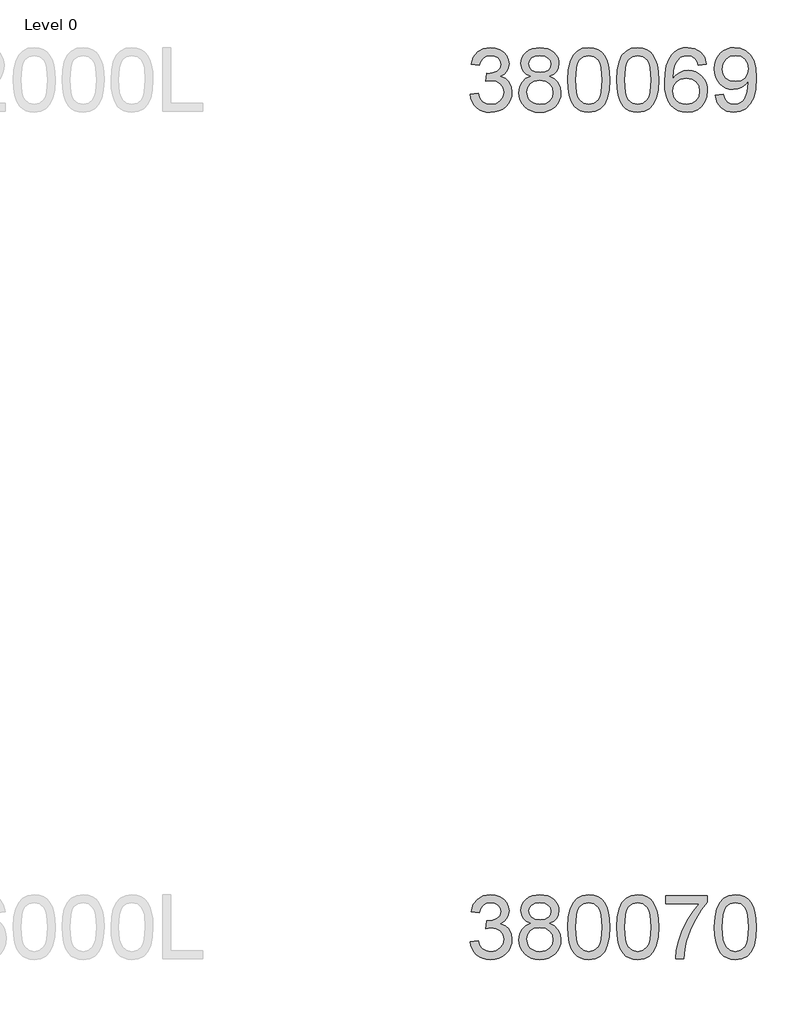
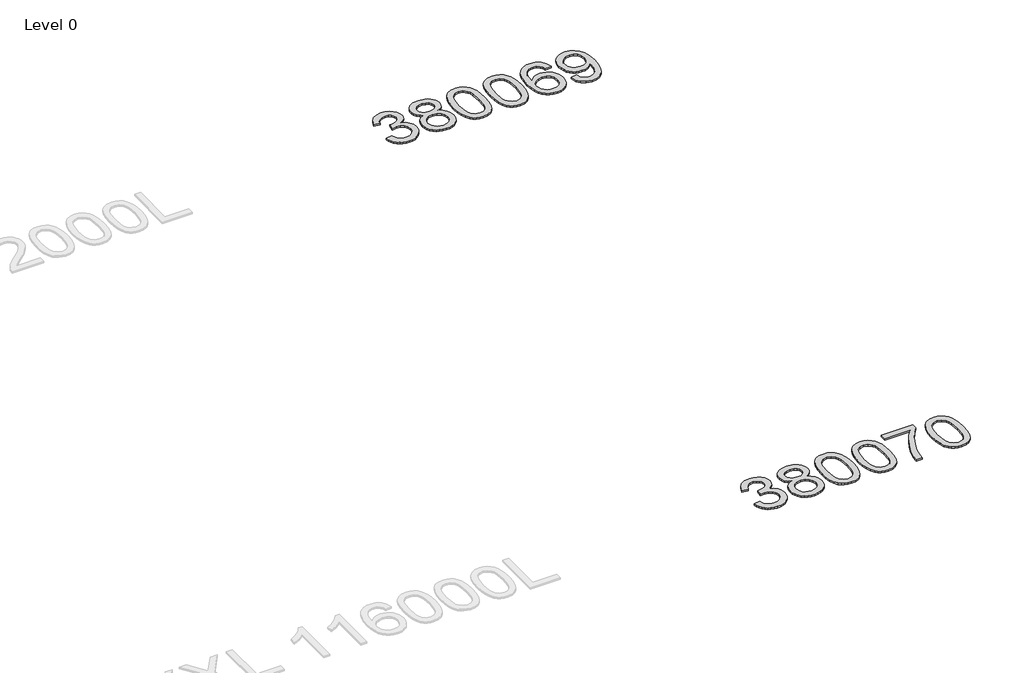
# One storey, part 22 of 37: 2 proxies.
"""IFC4 building model written with IfcOpenShell, lengths in millimetres."""

from ifc_helpers import new_model, si_unit, origin, origin_with_axes, place, context, project, spatial, polyline, outline, extrude, element, save

model = new_model("IFC4")

# Units and contexts
model_context = context("Model", 3, world=origin())
ifc_project = project(units=[si_unit("LENGTHUNIT", "METRE", prefix="MILLI")], contexts=[model_context])

# Site, building, storey
site = spatial("IfcSite", under=ifc_project)
building = spatial("IfcBuilding", under=site)
storey = spatial("IfcBuildingStorey", under=building, Name="Level 0", Elevation=0.0)

# Proxies
placement = place(None, origin())
element("IfcBuildingElementProxy", 1, Name="300mm Arial", ObjectType="300mm Arial", at=placement, inside=storey, context=model_context, shape_type="SweptSolid", body=[
    extrude(outline(polyline([(27688.7153576, -33620.925676), (27726.3864739, -33616.2167865), (27734.8201687, -33639.8899929), (27747.1718066, -33655.8744656), (27764.0483932, -33664.979545), (27786.0569335, -33668.0145714), (27811.8822496, -33663.8391108), (27831.8214537, -33651.3127288), (27844.5685649, -33632.6243235), (27848.8176019, -33609.9627926), (27844.6053531, -33588.4508929), (27831.9686065, -33571.0040893), (27812.8387428, -33559.4433976), (27789.1471423, -33555.5898337), (27762.733215, -33559.710112), (27766.9270698, -33522.0389957), (27772.9603345, -33522.4804541), (27795.5298949, -33519.7765215), (27815.7082223, -33511.6647235), (27829.9452556, -33497.942725), (27834.6909333, -33478.4081911), (27831.2512366, -33462.1386099), (27820.9321467, -33448.9408433), (27805.1867973, -33440.1944488), (27785.4683223, -33437.278984), (27765.7130592, -33440.22204), (27749.5630396, -33449.0512079), (27737.7724217, -33463.7664877), (27731.0953635, -33484.3678794), (27693.4242472, -33479.6589899), (27704.5158893, -33445.8322404), (27724.2527583, -33420.5771415), (27751.2552968, -33404.8501862), (27784.1439472, -33399.6078677), (27807.8263506, -33402.1922387), (27829.5773736, -33409.9453518), (27847.916291, -33422.1774281), (27861.362378, -33438.198689), (27869.6121317, -33456.6571681), (27872.3620496, -33476.2008991), (27869.7500874, -33494.4110579), (27861.9142009, -33510.9289595), (27848.9647547, -33525.0004458), (27831.0121133, -33535.8713587), (27854.5933492, -33545.3995024), (27872.067744, -33561.6230984), (27882.8834747, -33583.6592299), (27886.4887182, -33610.6249802), (27884.6860964, -33629.7364498), (27879.2782311, -33647.3396033), (27870.2651222, -33663.4344406), (27857.6467698, -33678.0209617), (27842.2739009, -33690.1242793), (27824.9972427, -33698.7695062), (27805.8167952, -33703.9566423), (27784.7325584, -33705.6856877), (27765.676271, -33704.2095612), (27748.3122408, -33699.7811817), (27732.6404678, -33692.4005492), (27718.660952, -33682.0676636), (27706.9393119, -33669.3895304), (27698.0411662, -33654.9731547), (27691.9665147, -33638.8185366), (27688.7153576, -33620.925676)])), origin_with_axes(), (0.0, 0.0, 1.0), 10.0),
    extrude(outline(polyline([(27974.3389387, -33534.988442), (27954.1698083, -33525.0556281), (27940.0155485, -33511.5911471), (27931.6554302, -33494.8709104), (27928.8687241, -33475.1708295), (27930.3862373, -33459.8071577), (27934.938777, -33445.7218758), (27942.5263431, -33432.9149839), (27953.1489357, -33421.3864818), (27966.2961185, -33411.8583382), (27981.4574553, -33405.0525213), (28017.8225905, -33399.6078677), (28054.4084549, -33405.18128), (28069.7353385, -33412.1480452), (28083.0848564, -33421.9015166), (28093.9005871, -33433.6553464), (28101.626109, -33446.6231867), (28106.2614221, -33460.8050376), (28107.8065265, -33476.2008991), (28105.0566086, -33495.2663835), (28096.8068549, -33511.7015117), (28082.9652948, -33525.0832192), (28063.4399579, -33534.988442), (28086.6257206, -33546.9354097), (28103.5023072, -33564.5293662), (28113.793806, -33586.9241826), (28117.2243056, -33613.2737305), (28115.5228514, -33632.0633034), (28110.4184887, -33649.2893779), (28101.9112175, -33664.9519538), (28090.001038, -33679.0510313), (28075.3133493, -33690.7036935), (28058.473551, -33699.0270236), (28039.481643, -33704.0210217), (28018.3376253, -33705.6856877), (27997.1936076, -33704.0141239), (27978.2016996, -33698.9994325), (27961.3619013, -33690.6416134), (27946.6742126, -33678.9406667), (27934.764033, -33664.7427209), (27926.2567619, -33648.8939047), (27921.1523992, -33631.3942181), (27919.450945, -33612.2436609), (27923.0194003, -33584.8732405), (27933.7247664, -33562.3588624), (27951.0152202, -33545.4730788), (27974.3389387, -33534.988442)]), holes=[polyline([(27966.5398404, -33476.2744755), (27969.8783695, -33492.7188007), (27979.8939568, -33505.8521879), (27996.2922967, -33514.4606266), (28018.7790837, -33517.3301062), (28040.7416388, -33514.4790207), (28056.8916584, -33505.9257643), (28066.8244723, -33493.2338355), (28070.1354102, -33477.9667327), (28066.7141077, -33462.1202158), (28056.4502, -33449.0144197), (28040.0794512, -33440.2128429), (28018.3376253, -33437.278984), (27996.4578436, -33440.1484636), (27980.114686, -33448.7569023), (27969.9335518, -33461.3752547), (27966.5398404, -33476.2744755)]), polyline([(27957.1220613, -33610.9192858), (27963.4128434, -33639.2829876), (27972.1224496, -33651.4506846), (27985.6697041, -33660.5097787), (28001.8933001, -33666.1383732), (28018.6319309, -33668.0145714), (28044.273306, -33664.069037), (28063.5135343, -33652.2324338), (28075.5432755, -33634.3073836), (28079.5531893, -33612.0965081), (28075.4145168, -33589.5085536), (28062.9984995, -33571.1880303), (28043.3168128, -33559.0479244), (28017.3811321, -33555.0012225), (27992.098442, -33558.9927421), (27973.0513517, -33570.9673011), (27961.1043839, -33588.9383365), (27957.1220613, -33610.9192858)])]), origin_with_axes(), (0.0, 0.0, 1.0), 10.0),
    extrude(outline(polyline([(28150.1865324, -33552.7203541), (28152.9548444, -33504.4818275), (28161.2597804, -33466.0105679), (28175.018567, -33436.717964), (28194.1484308, -33416.0154047), (28218.7873274, -33403.709752), (28249.0732127, -33399.6078677), (28272.2865666, -33402.0358889), (28293.0718993, -33409.3199524), (28310.4543236, -33421.1749497), (28323.4589521, -33437.3157722), (28333.2814014, -33457.6044643), (28341.1172879, -33481.9030701), (28346.2492417, -33512.7591724), (28347.959893, -33552.7203541), (28345.2191721, -33600.6829692), (28336.9970095, -33639.0622584), (28323.3209963, -33668.3824534), (28304.2187237, -33689.1677861), (28279.5246448, -33701.5562123), (28249.0732127, -33705.6856877), (28228.3246681, -33703.892263), (28209.9305684, -33698.5119888), (28193.8909134, -33689.5448652), (28180.2057032, -33676.9908921), (28167.0723159, -33654.2971715), (28157.6913251, -33626.0208417), (28152.0627305, -33592.1619025), (28150.1865324, -33552.7203541)]), holes=[polyline([(28187.8576487, -33552.6467777), (28192.2722326, -33611.9033701), (28197.7904625, -33632.1713688), (28205.5159844, -33646.1991691), (28225.2344594, -33662.5607208), (28249.0732127, -33668.0145714), (28272.911966, -33662.5423267), (28292.6304409, -33646.1255927), (28300.3559628, -33632.0747997), (28305.8741927, -33611.8113996), (28310.2887767, -33552.6467777), (28306.0213455, -33494.7237576), (28300.6870566, -33474.5224375), (28293.2190521, -33460.1612441), (28273.5373653, -33442.9995491), (28248.6317543, -33437.278984), (28225.0505184, -33442.3189674), (28206.1045956, -33457.4389174), (28198.1215563, -33473.0739022), (28192.4193854, -33494.1535405), (28187.8576487, -33552.6467777)])]), origin_with_axes(), (0.0, 0.0, 1.0), 10.0),
    extrude(outline(polyline([(28380.9221197, -33552.7203541), (28383.6904318, -33504.4818275), (28391.9953678, -33466.0105679), (28405.7541544, -33436.717964), (28424.8840182, -33416.0154047), (28449.5229148, -33403.709752), (28479.8088, -33399.6078677), (28503.0221539, -33402.0358889), (28523.8074867, -33409.3199524), (28541.1899109, -33421.1749497), (28554.1945395, -33437.3157722), (28564.0169887, -33457.6044643), (28571.8528752, -33481.9030701), (28576.9848291, -33512.7591724), (28578.6954803, -33552.7203541), (28575.9547595, -33600.6829692), (28567.7325969, -33639.0622584), (28554.0565837, -33668.3824534), (28534.9543111, -33689.1677861), (28510.2602322, -33701.5562123), (28479.8088, -33705.6856877), (28459.0602555, -33703.892263), (28440.6661558, -33698.5119888), (28424.6265008, -33689.5448652), (28410.9412905, -33676.9908921), (28397.8079033, -33654.2971715), (28388.4269124, -33626.0208417), (28382.7983179, -33592.1619025), (28380.9221197, -33552.7203541)]), holes=[polyline([(28418.593236, -33552.6467777), (28423.00782, -33611.9033701), (28428.5260499, -33632.1713688), (28436.2515718, -33646.1991691), (28455.9700468, -33662.5607208), (28479.8088, -33668.0145714), (28503.6475533, -33662.5423267), (28523.3660283, -33646.1255927), (28531.0915502, -33632.0747997), (28536.6097801, -33611.8113996), (28541.024364, -33552.6467777), (28536.7569329, -33494.7237576), (28531.422644, -33474.5224375), (28523.9546395, -33460.1612441), (28504.2729527, -33442.9995491), (28479.3673416, -33437.278984), (28455.7861058, -33442.3189674), (28436.840183, -33457.4389174), (28428.8571437, -33473.0739022), (28423.1549728, -33494.1535405), (28418.593236, -33552.6467777)])]), origin_with_axes(), (0.0, 0.0, 1.0), 10.0),
    extrude(outline(polyline([(28804.7221782, -33479.6589899), (28767.0510619, -33484.3678794), (28760.981009, -33465.6978682), (28752.7772405, -33452.950757), (28735.6891218, -33441.1969273), (28715.0325478, -33437.278984), (28697.5213648, -33439.5598524), (28681.0402514, -33446.4024575), (28666.8859916, -33460.8142347), (28655.3252999, -33480.6522713), (28647.5170046, -33508.7124704), (28644.6199339, -33547.7907354), (28659.7306868, -33530.1599908), (28677.839678, -33517.7347764), (28697.935232, -33510.3679394), (28719.0056733, -33507.9123271), (28737.1054675, -33509.5907887), (28753.80731, -33514.6261735), (28769.111201, -33523.0184815), (28783.0171405, -33534.7677128), (28794.5732336, -33549.1748914), (28802.8275859, -33565.5410417), (28807.7801973, -33583.8661635), (28809.4310677, -33604.150257), (28806.3224649, -33631.1252043), (28796.9966563, -33656.131983), (28782.2261942, -33677.34038), (28762.7836307, -33692.9201825), (28739.5518827, -33702.4943114), (28713.413867, -33705.6856877), (28690.9569704, -33703.5703662), (28670.6751762, -33697.2244018), (28652.5684842, -33686.6477945), (28636.6368946, -33671.8405442), (28623.6483609, -33652.1772515), (28614.3708368, -33627.0325171), (28608.8043224, -33596.406341), (28606.9488176, -33560.2987232), (28609.0089567, -33519.8179082), (28615.1893743, -33485.2691903), (28625.4900701, -33456.6525696), (28639.9110443, -33433.9680461), (28655.5414306, -33418.9354681), (28673.6642174, -33408.1979123), (28694.2794047, -33401.7553789), (28717.3869925, -33399.6078677), (28750.4411898, -33404.9237626), (28776.9102993, -33420.8714471), (28795.4515519, -33446.2001224), (28804.7221782, -33479.6589899)]), holes=[polyline([(28644.6199339, -33603.5616459), (28646.7996347, -33620.2542914), (28653.3387372, -33636.1927788), (28663.4922802, -33649.8963831), (28676.5153029, -33659.8843793), (28692.2330611, -33665.9820234), (28710.470811, -33668.0145714), (28735.3304368, -33663.8023226), (28754.8741678, -33651.165576), (28767.5385055, -33631.2999483), (28771.7599514, -33605.4010558), (28767.5936878, -33580.54143), (28755.094897, -33561.5863102), (28735.2200722, -33549.5841601), (28708.9257066, -33545.5834434), (28684.102869, -33549.5841601), (28663.3451274, -33561.5863102), (28649.3012323, -33580.0815775), (28644.6199339, -33603.5616459)])]), origin_with_axes(), (0.0, 0.0, 1.0), 10.0),
    extrude(outline(polyline([(28847.102184, -33625.6345656), (28884.7733003, -33620.925676), (28891.2112352, -33642.308817), (28901.6958721, -33656.867747), (28915.9696935, -33665.2278653), (28933.7751821, -33668.0145714), (28949.7504577, -33666.2211467), (28964.2725995, -33660.8408725), (28976.3391289, -33652.4623601), (28984.9475676, -33641.6742206), (28997.2716145, -33608.932723), (29002.716268, -33565.228342), (29002.4955388, -33557.8707021), (28989.444925, -33573.7999924), (28972.3660034, -33586.4183449), (28952.4911786, -33594.6405075), (28931.0528553, -33597.3812283), (28913.1576955, -33595.7073653), (28896.701874, -33590.685776), (28881.6853908, -33582.3164606), (28868.108246, -33570.5994191), (28856.8579547, -33556.1462552), (28848.8220324, -33539.5685728), (28844.000479, -33520.8663719), (28842.3932945, -33500.0396524), (28844.0786539, -33478.5185557), (28849.134732, -33459.2047509), (28857.561529, -33442.0982382), (28869.3590447, -33427.1990174), (28883.6949462, -33415.1278894), (28899.7369005, -33406.5056551), (28917.4849075, -33401.3323146), (28936.9389672, -33399.6078677), (28965.0359546, -33403.5442051), (28990.6129503, -33415.3532171), (29012.0052884, -33434.4462927), (29027.5483027, -33460.2348205), (29037.012067, -33495.8825859), (29040.1666551, -33544.5533738), (29037.021264, -33596.1580207), (29027.5850909, -33636.045626), (29011.940909, -33666.0188116), (28990.171492, -33687.8801992), (28963.2149388, -33701.2343156), (28932.0093485, -33705.6856877), (28899.8012798, -33700.4341722), (28874.1047225, -33684.6796258), (28856.133687, -33659.4153298), (28847.102184, -33625.6345656)]), holes=[polyline([(29002.4955388, -33499.1567356), (28998.4304427, -33473.6257252), (28986.2351546, -33453.9808266), (28967.307626, -33441.4544447), (28943.0458084, -33437.278984), (28917.8826799, -33441.7763414), (28897.7227466, -33455.2684136), (28884.4789947, -33475.9157906), (28880.0644108, -33501.8790624), (28884.2398714, -33525.1567956), (28896.7662534, -33543.6336688), (28916.429546, -33555.6910012), (28942.0157388, -33559.710112), (28966.0844183, -33555.6910012), (28985.4626024, -33543.6336688), (28998.2373047, -33524.4762139), (29002.4955388, -33499.1567356)])]), origin_with_axes(), (0.0, 0.0, 1.0), 10.0),
])
element("IfcBuildingElementProxy", 2, Name="300mm Arial", ObjectType="300mm Arial", at=placement, inside=storey, context=model_context, shape_type="SweptSolid", body=[
    extrude(outline(polyline([(27688.7153576, -37620.925676), (27726.3864739, -37616.2167865), (27734.8201687, -37639.8899929), (27747.1718066, -37655.8744656), (27764.0483932, -37664.979545), (27786.0569335, -37668.0145714), (27811.8822496, -37663.8391108), (27831.8214537, -37651.3127288), (27844.5685649, -37632.6243235), (27848.8176019, -37609.9627926), (27844.6053531, -37588.4508929), (27831.9686065, -37571.0040893), (27812.8387428, -37559.4433976), (27789.1471423, -37555.5898337), (27762.733215, -37559.710112), (27766.9270698, -37522.0389957), (27772.9603345, -37522.4804541), (27795.5298949, -37519.7765215), (27815.7082223, -37511.6647235), (27829.9452556, -37497.942725), (27834.6909333, -37478.4081911), (27831.2512366, -37462.1386099), (27820.9321467, -37448.9408433), (27805.1867973, -37440.1944488), (27785.4683223, -37437.278984), (27765.7130592, -37440.22204), (27749.5630396, -37449.0512079), (27737.7724217, -37463.7664877), (27731.0953635, -37484.3678794), (27693.4242472, -37479.6589899), (27704.5158893, -37445.8322404), (27724.2527583, -37420.5771415), (27751.2552968, -37404.8501862), (27784.1439472, -37399.6078677), (27807.8263506, -37402.1922387), (27829.5773736, -37409.9453518), (27847.916291, -37422.1774281), (27861.362378, -37438.198689), (27869.6121317, -37456.6571681), (27872.3620496, -37476.2008991), (27869.7500874, -37494.4110579), (27861.9142009, -37510.9289595), (27848.9647547, -37525.0004458), (27831.0121133, -37535.8713587), (27854.5933492, -37545.3995024), (27872.067744, -37561.6230984), (27882.8834747, -37583.6592299), (27886.4887182, -37610.6249802), (27884.6860964, -37629.7364498), (27879.2782311, -37647.3396033), (27870.2651222, -37663.4344406), (27857.6467698, -37678.0209617), (27842.2739009, -37690.1242793), (27824.9972427, -37698.7695062), (27805.8167952, -37703.9566423), (27784.7325584, -37705.6856877), (27765.676271, -37704.2095612), (27748.3122408, -37699.7811817), (27732.6404678, -37692.4005492), (27718.660952, -37682.0676636), (27706.9393119, -37669.3895304), (27698.0411662, -37654.9731547), (27691.9665147, -37638.8185366), (27688.7153576, -37620.925676)])), origin_with_axes(), (0.0, 0.0, 1.0), 10.0),
    extrude(outline(polyline([(27974.3389387, -37534.988442), (27954.1698083, -37525.0556281), (27940.0155485, -37511.5911471), (27931.6554302, -37494.8709104), (27928.8687241, -37475.1708295), (27930.3862373, -37459.8071577), (27934.938777, -37445.7218758), (27942.5263431, -37432.9149839), (27953.1489357, -37421.3864818), (27966.2961185, -37411.8583382), (27981.4574553, -37405.0525213), (28017.8225905, -37399.6078677), (28054.4084549, -37405.18128), (28069.7353385, -37412.1480452), (28083.0848564, -37421.9015166), (28093.9005871, -37433.6553464), (28101.626109, -37446.6231867), (28106.2614221, -37460.8050376), (28107.8065265, -37476.2008991), (28105.0566086, -37495.2663835), (28096.8068549, -37511.7015117), (28082.9652948, -37525.0832192), (28063.4399579, -37534.988442), (28086.6257206, -37546.9354097), (28103.5023072, -37564.5293662), (28113.793806, -37586.9241826), (28117.2243056, -37613.2737305), (28115.5228514, -37632.0633034), (28110.4184887, -37649.2893779), (28101.9112175, -37664.9519538), (28090.001038, -37679.0510313), (28075.3133493, -37690.7036935), (28058.473551, -37699.0270236), (28039.481643, -37704.0210217), (28018.3376253, -37705.6856877), (27997.1936076, -37704.0141239), (27978.2016996, -37698.9994325), (27961.3619013, -37690.6416134), (27946.6742126, -37678.9406667), (27934.764033, -37664.7427209), (27926.2567619, -37648.8939047), (27921.1523992, -37631.3942181), (27919.450945, -37612.2436609), (27923.0194003, -37584.8732405), (27933.7247664, -37562.3588624), (27951.0152202, -37545.4730788), (27974.3389387, -37534.988442)]), holes=[polyline([(27966.5398404, -37476.2744755), (27969.8783695, -37492.7188007), (27979.8939568, -37505.8521879), (27996.2922967, -37514.4606266), (28018.7790837, -37517.3301062), (28040.7416388, -37514.4790207), (28056.8916584, -37505.9257643), (28066.8244723, -37493.2338355), (28070.1354102, -37477.9667327), (28066.7141077, -37462.1202158), (28056.4502, -37449.0144197), (28040.0794512, -37440.2128429), (28018.3376253, -37437.278984), (27996.4578436, -37440.1484636), (27980.114686, -37448.7569023), (27969.9335518, -37461.3752547), (27966.5398404, -37476.2744755)]), polyline([(27957.1220613, -37610.9192858), (27963.4128434, -37639.2829876), (27972.1224496, -37651.4506846), (27985.6697041, -37660.5097787), (28001.8933001, -37666.1383732), (28018.6319309, -37668.0145714), (28044.273306, -37664.069037), (28063.5135343, -37652.2324338), (28075.5432755, -37634.3073836), (28079.5531893, -37612.0965081), (28075.4145168, -37589.5085536), (28062.9984995, -37571.1880303), (28043.3168128, -37559.0479244), (28017.3811321, -37555.0012225), (27992.098442, -37558.9927421), (27973.0513517, -37570.9673011), (27961.1043839, -37588.9383365), (27957.1220613, -37610.9192858)])]), origin_with_axes(), (0.0, 0.0, 1.0), 10.0),
    extrude(outline(polyline([(28150.1865324, -37552.7203541), (28152.9548444, -37504.4818275), (28161.2597804, -37466.0105679), (28175.018567, -37436.717964), (28194.1484308, -37416.0154047), (28218.7873274, -37403.709752), (28249.0732127, -37399.6078677), (28272.2865666, -37402.0358889), (28293.0718993, -37409.3199524), (28310.4543236, -37421.1749497), (28323.4589521, -37437.3157722), (28333.2814014, -37457.6044643), (28341.1172879, -37481.9030701), (28346.2492417, -37512.7591724), (28347.959893, -37552.7203541), (28345.2191721, -37600.6829692), (28336.9970095, -37639.0622584), (28323.3209963, -37668.3824534), (28304.2187237, -37689.1677861), (28279.5246448, -37701.5562123), (28249.0732127, -37705.6856877), (28228.3246681, -37703.892263), (28209.9305684, -37698.5119888), (28193.8909134, -37689.5448652), (28180.2057032, -37676.9908921), (28167.0723159, -37654.2971715), (28157.6913251, -37626.0208417), (28152.0627305, -37592.1619025), (28150.1865324, -37552.7203541)]), holes=[polyline([(28187.8576487, -37552.6467777), (28192.2722326, -37611.9033701), (28197.7904625, -37632.1713688), (28205.5159844, -37646.1991691), (28225.2344594, -37662.5607208), (28249.0732127, -37668.0145714), (28272.911966, -37662.5423267), (28292.6304409, -37646.1255927), (28300.3559628, -37632.0747997), (28305.8741927, -37611.8113996), (28310.2887767, -37552.6467777), (28306.0213455, -37494.7237576), (28300.6870566, -37474.5224375), (28293.2190521, -37460.1612441), (28273.5373653, -37442.9995491), (28248.6317543, -37437.278984), (28225.0505184, -37442.3189674), (28206.1045956, -37457.4389174), (28198.1215563, -37473.0739022), (28192.4193854, -37494.1535405), (28187.8576487, -37552.6467777)])]), origin_with_axes(), (0.0, 0.0, 1.0), 10.0),
    extrude(outline(polyline([(28380.9221197, -37552.7203541), (28383.6904318, -37504.4818275), (28391.9953678, -37466.0105679), (28405.7541544, -37436.717964), (28424.8840182, -37416.0154047), (28449.5229148, -37403.709752), (28479.8088, -37399.6078677), (28503.0221539, -37402.0358889), (28523.8074867, -37409.3199524), (28541.1899109, -37421.1749497), (28554.1945395, -37437.3157722), (28564.0169887, -37457.6044643), (28571.8528752, -37481.9030701), (28576.9848291, -37512.7591724), (28578.6954803, -37552.7203541), (28575.9547595, -37600.6829692), (28567.7325969, -37639.0622584), (28554.0565837, -37668.3824534), (28534.9543111, -37689.1677861), (28510.2602322, -37701.5562123), (28479.8088, -37705.6856877), (28459.0602555, -37703.892263), (28440.6661558, -37698.5119888), (28424.6265008, -37689.5448652), (28410.9412905, -37676.9908921), (28397.8079033, -37654.2971715), (28388.4269124, -37626.0208417), (28382.7983179, -37592.1619025), (28380.9221197, -37552.7203541)]), holes=[polyline([(28418.593236, -37552.6467777), (28423.00782, -37611.9033701), (28428.5260499, -37632.1713688), (28436.2515718, -37646.1991691), (28455.9700468, -37662.5607208), (28479.8088, -37668.0145714), (28503.6475533, -37662.5423267), (28523.3660283, -37646.1255927), (28531.0915502, -37632.0747997), (28536.6097801, -37611.8113996), (28541.024364, -37552.6467777), (28536.7569329, -37494.7237576), (28531.422644, -37474.5224375), (28523.9546395, -37460.1612441), (28504.2729527, -37442.9995491), (28479.3673416, -37437.278984), (28455.7861058, -37442.3189674), (28436.840183, -37457.4389174), (28428.8571437, -37473.0739022), (28423.1549728, -37494.1535405), (28418.593236, -37552.6467777)])]), origin_with_axes(), (0.0, 0.0, 1.0), 10.0),
    extrude(outline(polyline([(28611.6577071, -37441.9878736), (28611.6577071, -37404.3167573), (28809.4310677, -37404.3167573), (28809.4310677, -37434.7773865), (28781.2421098, -37470.452743), (28753.3290635, -37515.82179), (28728.7085609, -37566.7458552), (28710.3972346, -37619.0862661), (28701.4209139, -37658.2473044), (28696.4177188, -37700.9767982), (28658.7466025, -37700.9767982), (28662.8208956, -37662.1468536), (28673.7193997, -37615.9960573), (28691.1478092, -37567.076949), (28714.8118186, -37519.9420684), (28742.4397564, -37477.3321363), (28771.7599514, -37441.9878736), (28611.6577071, -37441.9878736)])), origin_with_axes(), (0.0, 0.0, 1.0), 10.0),
    extrude(outline(polyline([(28842.3932945, -37552.7203541), (28845.1616065, -37504.4818275), (28853.4665425, -37466.0105679), (28867.2253292, -37436.717964), (28886.3551929, -37416.0154047), (28910.9940895, -37403.709752), (28941.2799748, -37399.6078677), (28964.4933287, -37402.0358889), (28985.2786614, -37409.3199524), (29002.6610857, -37421.1749497), (29015.6657142, -37437.3157722), (29025.4881635, -37457.6044643), (29033.32405, -37481.9030701), (29038.4560038, -37512.7591724), (29040.1666551, -37552.7203541), (29037.4259342, -37600.6829692), (29029.2037716, -37639.0622584), (29015.5277585, -37668.3824534), (28996.4254859, -37689.1677861), (28971.7314069, -37701.5562123), (28941.2799748, -37705.6856877), (28920.5314303, -37703.892263), (28902.1373305, -37698.5119888), (28886.0976755, -37689.5448652), (28872.4124653, -37676.9908921), (28859.2790781, -37654.2971715), (28849.8980872, -37626.0208417), (28844.2694927, -37592.1619025), (28842.3932945, -37552.7203541)]), holes=[polyline([(28880.0644108, -37552.6467777), (28884.4789947, -37611.9033701), (28889.9972247, -37632.1713688), (28897.7227466, -37646.1991691), (28917.4412215, -37662.5607208), (28941.2799748, -37668.0145714), (28965.1187281, -37662.5423267), (28984.837203, -37646.1255927), (28992.5627249, -37632.0747997), (28998.0809548, -37611.8113996), (29002.4955388, -37552.6467777), (28998.2281076, -37494.7237576), (28992.8938187, -37474.5224375), (28985.4258142, -37460.1612441), (28965.7441275, -37442.9995491), (28940.8385164, -37437.278984), (28917.2572805, -37442.3189674), (28898.3113578, -37457.4389174), (28890.3283185, -37473.0739022), (28884.6261475, -37494.1535405), (28880.0644108, -37552.6467777)])]), origin_with_axes(), (0.0, 0.0, 1.0), 10.0),
])

save(model, "model.ifc")
